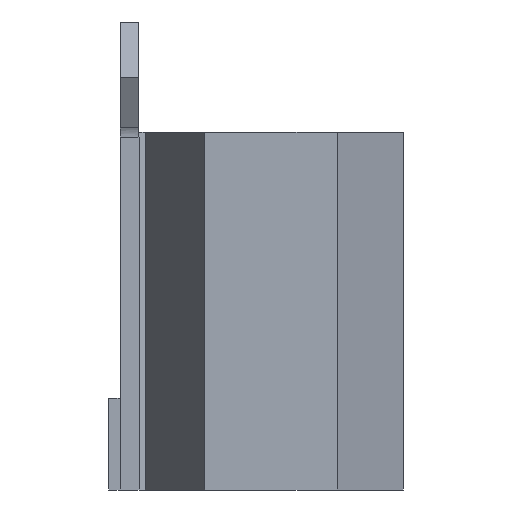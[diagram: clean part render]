
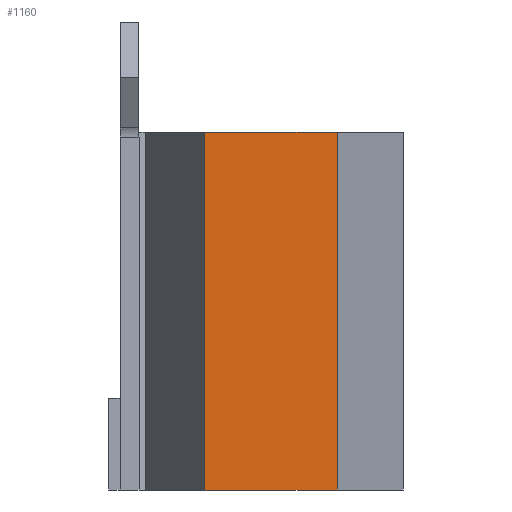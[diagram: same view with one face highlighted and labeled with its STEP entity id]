
A CAD part, left-side view. The second image highlights one B-rep face of the part: STEP entity #1160.
In plain terms, the highlighted planar face has unit normal (-1, 0, 0).
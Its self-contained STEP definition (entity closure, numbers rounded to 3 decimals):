
#94=FACE_OUTER_BOUND('',#161,.T.);
#161=EDGE_LOOP('',(#969,#970,#971,#972));
#235=LINE('',#1707,#379);
#286=LINE('',#1827,#430);
#301=LINE('',#1857,#445);
#302=LINE('',#1859,#446);
#379=VECTOR('',#1380,10.);
#430=VECTOR('',#1471,10.);
#445=VECTOR('',#1516,10.);
#446=VECTOR('',#1519,10.);
#518=VERTEX_POINT('',#1704);
#519=VERTEX_POINT('',#1706);
#567=VERTEX_POINT('',#1824);
#568=VERTEX_POINT('',#1826);
#640=EDGE_CURVE('',#519,#518,#235,.T.);
#700=EDGE_CURVE('',#567,#568,#286,.T.);
#715=EDGE_CURVE('',#518,#568,#301,.T.);
#716=EDGE_CURVE('',#519,#567,#302,.T.);
#969=ORIENTED_EDGE('',*,*,#640,.T.);
#970=ORIENTED_EDGE('',*,*,#715,.T.);
#971=ORIENTED_EDGE('',*,*,#700,.F.);
#972=ORIENTED_EDGE('',*,*,#716,.F.);
#1099=PLANE('',#1253);
#1160=ADVANCED_FACE('',(#94),#1099,.T.);
#1253=AXIS2_PLACEMENT_3D('',#1858,#1517,#1518);
#1380=DIRECTION('',(0.,1.,0.));
#1471=DIRECTION('',(0.,1.,0.));
#1516=DIRECTION('',(0.,0.,-1.));
#1517=DIRECTION('center_axis',(-1.,0.,0.));
#1518=DIRECTION('ref_axis',(0.,1.,0.));
#1519=DIRECTION('',(0.,0.,-1.));
#1704=CARTESIAN_POINT('',(-27.847,-2.167,-114.069));
#1706=CARTESIAN_POINT('',(-27.847,-31.034,-114.069));
#1707=CARTESIAN_POINT('',(-27.847,-31.034,-114.069));
#1824=CARTESIAN_POINT('',(-27.847,-31.034,-192.069));
#1826=CARTESIAN_POINT('',(-27.847,-2.167,-192.069));
#1827=CARTESIAN_POINT('',(-27.847,-31.034,-192.069));
#1857=CARTESIAN_POINT('',(-27.847,-2.167,-114.069));
#1858=CARTESIAN_POINT('Origin',(-27.847,-31.034,-114.069));
#1859=CARTESIAN_POINT('',(-27.847,-31.034,-114.069));
